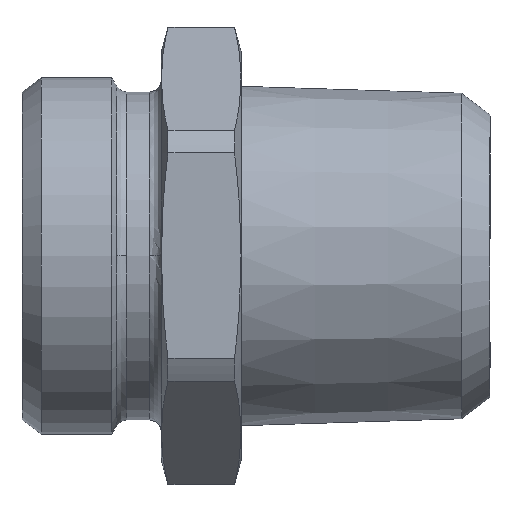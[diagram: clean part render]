
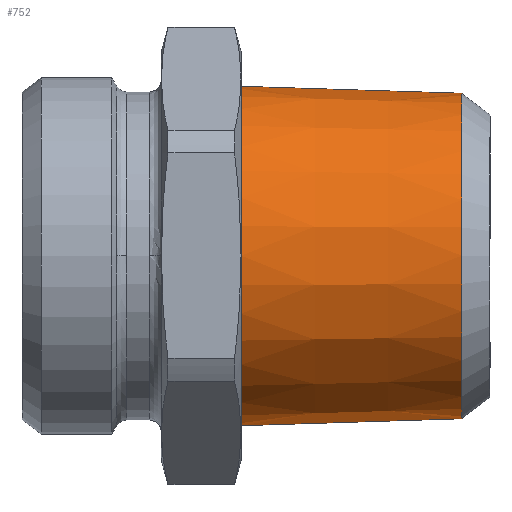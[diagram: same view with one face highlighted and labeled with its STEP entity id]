
A CAD part, top view. The second image highlights one B-rep face of the part: STEP entity #752.
In plain terms, the highlighted conical face has half-angle 1.79 degrees and reference radius 16.693 mm.
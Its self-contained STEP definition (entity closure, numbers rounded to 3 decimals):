
#711=CARTESIAN_POINT('',(0.,0.,-15.076));
#712=DIRECTION('',(0.,0.,1.0));
#713=DIRECTION('',(0.0,-1.0,0.0));
#714=AXIS2_PLACEMENT_3D('',#711,#712,#713);
#715=CONICAL_SURFACE('',#714,16.693,1.79);
#716=CARTESIAN_POINT('',(0.,-16.347,-26.151));
#717=VERTEX_POINT('',#716);
#718=CARTESIAN_POINT('',(0.,-17.039,-4.0));
#719=VERTEX_POINT('',#718);
#720=CARTESIAN_POINT('',(0.,-16.347,-26.151));
#721=DIRECTION('',(0.,-0.031,1.));
#722=VECTOR('',#721,22.162);
#723=LINE('',#720,#722);
#724=EDGE_CURVE('',#717,#719,#723,.T.);
#725=ORIENTED_EDGE('',*,*,#724,.F.);
#726=CARTESIAN_POINT('',(0.,16.347,-26.151));
#727=VERTEX_POINT('',#726);
#728=CARTESIAN_POINT('',(0.,0.,-26.151));
#729=DIRECTION('',(0.0,0.0,1.0));
#730=DIRECTION('',(0.0,-1.0,0.0));
#731=AXIS2_PLACEMENT_3D('',#728,#729,#730);
#732=CIRCLE('',#731,16.347);
#733=EDGE_CURVE('',#717,#727,#732,.T.);
#734=ORIENTED_EDGE('',*,*,#733,.T.);
#735=CARTESIAN_POINT('',(0.,17.039,-4.0));
#736=VERTEX_POINT('',#735);
#737=CARTESIAN_POINT('',(0.,17.039,-4.0));
#738=DIRECTION('',(0.,-0.031,-1.));
#739=VECTOR('',#738,22.162);
#740=LINE('',#737,#739);
#741=EDGE_CURVE('',#736,#727,#740,.T.);
#742=ORIENTED_EDGE('',*,*,#741,.F.);
#743=CARTESIAN_POINT('',(0.,0.,-4.0));
#744=DIRECTION('',(0.0,0.0,1.0));
#745=DIRECTION('',(0.0,-1.0,0.0));
#746=AXIS2_PLACEMENT_3D('',#743,#744,#745);
#747=CIRCLE('',#746,17.039);
#748=EDGE_CURVE('',#719,#736,#747,.T.);
#749=ORIENTED_EDGE('',*,*,#748,.F.);
#750=EDGE_LOOP('',(#725,#734,#742,#749));
#751=FACE_OUTER_BOUND('',#750,.T.);
#752=ADVANCED_FACE('',(#751),#715,.T.);
